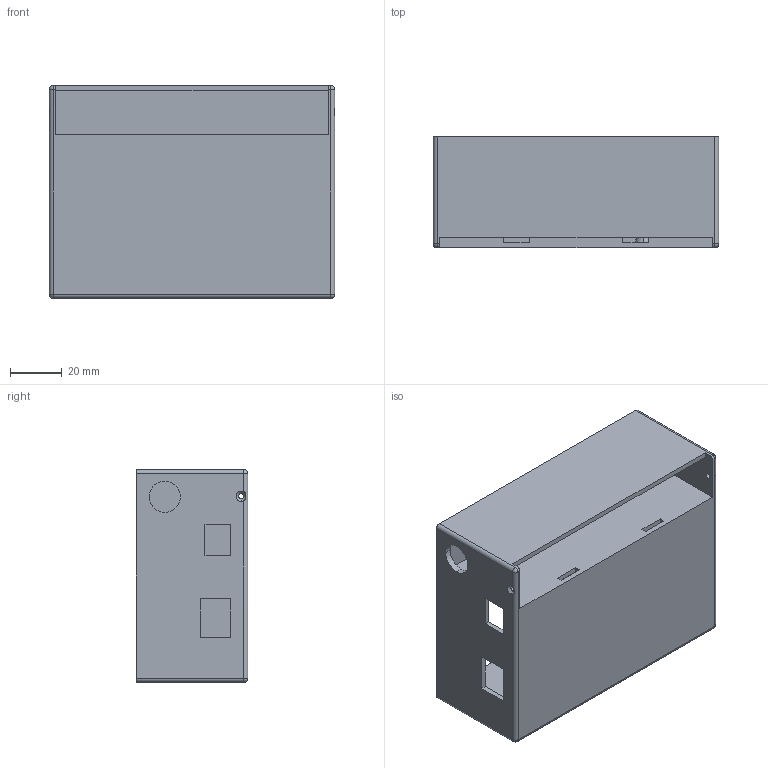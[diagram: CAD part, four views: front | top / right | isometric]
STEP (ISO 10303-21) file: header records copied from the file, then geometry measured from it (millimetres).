
FILE_DESCRIPTION (( 'STEP AP214' ), '1' );
FILE_NAME ('菁褲.STEP', '2017-08-07T03:15:41', ( '' ), ( '' ), 'SwSTEP 2.0', 'SolidWorks 2016', '' );
FILE_SCHEMA (( 'AUTOMOTIVE_DESIGN' ));
Length unit declared in the file: millimetre
Products named in the file (1): 菁褲
Bounding box: 110 x 43 x 82 mm (x, y, z)
Volume: 57236.2 mm3; surface area: 56177.7 mm2
Topology: 1 solids, 1 shells, 115 faces, 289 edges, 184 vertices
Faces by surface type: plane 49, cylinder 46, cone 16, sphere 4
Entity records: 3537 total; most frequent: DIRECTION 637, CARTESIAN_POINT 623, ORIENTED_EDGE 570, EDGE_CURVE 285, AXIS2_PLACEMENT_3D 238, VERTEX_POINT 184, VECTOR 161, LINE 161
